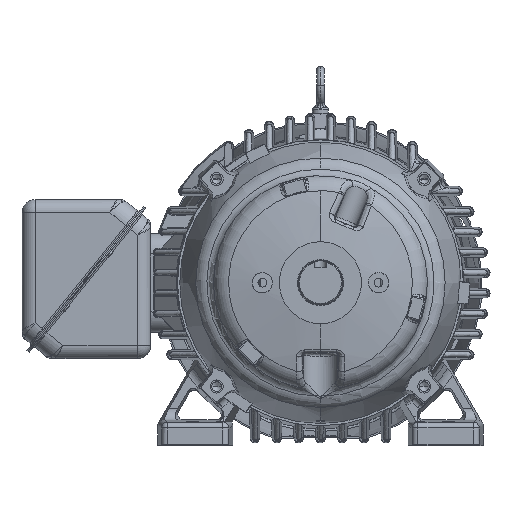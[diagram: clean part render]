
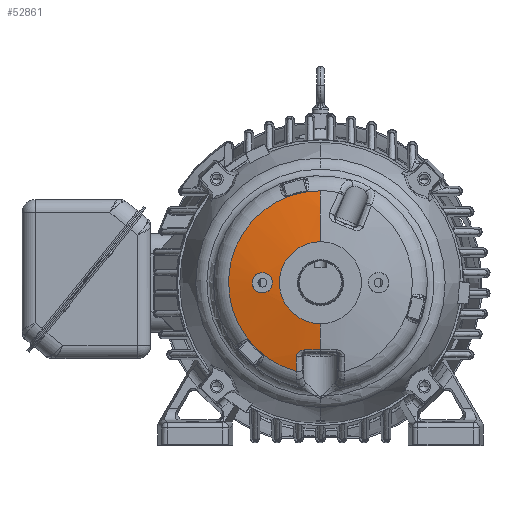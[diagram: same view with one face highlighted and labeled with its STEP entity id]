
A CAD part, top view. The second image highlights one B-rep face of the part: STEP entity #52861.
In plain terms, the highlighted spherical face has radius 431.8 mm.
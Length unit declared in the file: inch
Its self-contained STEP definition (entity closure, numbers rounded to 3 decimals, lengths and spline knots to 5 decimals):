
#41563=CARTESIAN_POINT('',(0.,0.,-3.687));
#41564=DIRECTION('',(0.,0.,-1.));
#41565=DIRECTION('',(0.,1.,0.));
#41566=AXIS2_PLACEMENT_3D('',#41563,#41564,#41565);
#42620=CARTESIAN_POINT('',(0.,0.,12.84661));
#42621=DIRECTION('',(1.,0.,0.));
#42622=DIRECTION('',(0.,0.104,-0.995));
#42623=AXIS2_PLACEMENT_3D('',#42620,#42621,#42622);
#42625=CARTESIAN_POINT('',(0.,0.,12.84661));
#42626=DIRECTION('',(-1.,0.,0.));
#42627=DIRECTION('',(0.,-0.104,-0.995));
#42628=AXIS2_PLACEMENT_3D('',#42625,#42626,#42627);
#42669=CARTESIAN_POINT('',(0.,0.,-4.06147));
#42670=DIRECTION('',(0.,0.,1.));
#42671=DIRECTION('',(0.,-1.,0.));
#42672=AXIS2_PLACEMENT_3D('',#42669,#42670,#42671);
#42674=CARTESIAN_POINT('',(2.0625,0.,-4.02781));
#42675=CARTESIAN_POINT('',(2.0625,-0.03334,-4.02781));
#42676=CARTESIAN_POINT('',(2.07011,-0.10007,
-4.02669));
#42677=CARTESIAN_POINT('',(2.10446,-0.19594,
-4.0216));
#42678=CARTESIAN_POINT('',(2.15905,-0.27983,
-4.0135));
#42679=CARTESIAN_POINT('',(2.22785,-0.34718,
-4.0033));
#42680=CARTESIAN_POINT('',(2.31446,-0.40076,
-3.99045));
#42681=CARTESIAN_POINT('',(2.41441,-0.43321,
-3.9756));
#42682=CARTESIAN_POINT('',(2.51771,-0.44134,
-3.96024));
#42683=CARTESIAN_POINT('',(2.62581,-0.42409,
-3.94415));
#42684=CARTESIAN_POINT('',(2.73131,-0.37719,
-3.92844));
#42685=CARTESIAN_POINT('',(2.819,-0.30627,
-3.91536));
#42686=CARTESIAN_POINT('',(2.88646,-0.21551,
-3.9053));
#42687=CARTESIAN_POINT('',(2.92889,-0.1082,
-3.89896));
#42688=CARTESIAN_POINT('',(2.9375,-0.03569,-3.89768));
#42689=CARTESIAN_POINT('',(2.9375,0.,-3.89768));
#42691=CARTESIAN_POINT('',(2.9375,0.,-3.89768));
#42692=CARTESIAN_POINT('',(2.9375,0.03529,-3.89768));
#42693=CARTESIAN_POINT('',(2.9291,0.1072,
-3.89893));
#42694=CARTESIAN_POINT('',(2.88699,0.21459,
-3.90522));
#42695=CARTESIAN_POINT('',(2.81967,0.30553,
-3.91526));
#42696=CARTESIAN_POINT('',(2.73261,0.37636,
-3.92824));
#42697=CARTESIAN_POINT('',(2.62703,0.42379,
-3.94397));
#42698=CARTESIAN_POINT('',(2.51831,0.44136,
-3.96015));
#42699=CARTESIAN_POINT('',(2.41464,0.43327,
-3.97556));
#42700=CARTESIAN_POINT('',(2.31453,0.40082,
-3.99044));
#42701=CARTESIAN_POINT('',(2.22745,0.34695,
-4.00336));
#42702=CARTESIAN_POINT('',(2.15843,0.27905,
-4.0136));
#42703=CARTESIAN_POINT('',(2.10436,0.19563,
-4.02161));
#42704=CARTESIAN_POINT('',(2.07009,0.09996,
-4.02669));
#42705=CARTESIAN_POINT('',(2.0625,0.03332,-4.02781));
#42706=CARTESIAN_POINT('',(2.0625,0.,-4.02781));
#48996=CARTESIAN_POINT('',(0.68211,-2.89497,
-3.89119));
#48997=CARTESIAN_POINT('',(0.59556,-2.89497,
-3.89472));
#48998=CARTESIAN_POINT('',(0.43079,-2.89496,
-3.9001));
#48999=CARTESIAN_POINT('',(0.20447,-2.89496,
-3.9043));
#49000=CARTESIAN_POINT('',(0.06637,-2.89496,
-3.90508));
#49001=CARTESIAN_POINT('',(0.,-2.89496,
-3.90508));
#49003=CARTESIAN_POINT('',(0.68211,-2.89497,
-3.89119));
#49004=CARTESIAN_POINT('',(0.68729,-2.89497,
-3.89098));
#49005=CARTESIAN_POINT('',(0.69793,-2.89503,
-3.89053));
#49006=CARTESIAN_POINT('',(0.71464,-2.89547,
-3.88975));
#49007=CARTESIAN_POINT('',(0.7324,-2.89644,
-3.88881));
#49008=CARTESIAN_POINT('',(0.75127,-2.8982,
-3.88767));
#49009=CARTESIAN_POINT('',(0.77133,-2.90101,
-3.88627));
#49010=CARTESIAN_POINT('',(0.79251,-2.90514,
-3.88457));
#49011=CARTESIAN_POINT('',(0.81472,-2.91089,
-3.8825));
#49012=CARTESIAN_POINT('',(0.83769,-2.9185,
-3.88004));
#49013=CARTESIAN_POINT('',(0.86096,-2.92809,
-3.87719));
#49014=CARTESIAN_POINT('',(0.88408,-2.93969,
-3.87394));
#49015=CARTESIAN_POINT('',(0.90644,-2.95313,
-3.87038));
#49016=CARTESIAN_POINT('',(0.92771,-2.9682,
-3.86654));
#49017=CARTESIAN_POINT('',(0.94779,-2.98487,
-3.86245));
#49018=CARTESIAN_POINT('',(0.9665,-3.00301,
-3.85812));
#49019=CARTESIAN_POINT('',(0.98361,-3.0224,
-3.85363));
#49020=CARTESIAN_POINT('',(0.99885,-3.04275,
-3.84903));
#49021=CARTESIAN_POINT('',(1.01203,-3.0637,
-3.8444));
#49022=CARTESIAN_POINT('',(1.02298,-3.08492,
-3.83982));
#49023=CARTESIAN_POINT('',(1.03154,-3.10584,
-3.83541));
#49024=CARTESIAN_POINT('',(1.03779,-3.12616,
-3.83123));
#49025=CARTESIAN_POINT('',(1.0419,-3.14579,
-3.82728));
#49026=CARTESIAN_POINT('',(1.04402,-3.16473,
-3.82356));
#49027=CARTESIAN_POINT('',(1.0442,-3.17695,
-3.82123));
#49028=CARTESIAN_POINT('',(1.044,-3.18295,
-3.82009));
#49215=CARTESIAN_POINT('',(1.02054,-3.82077,
-3.687));
#49229=CARTESIAN_POINT('',(1.02054,-3.82077,
-3.687));
#49230=CARTESIAN_POINT('',(1.02366,-3.74329,
-3.70471));
#49231=CARTESIAN_POINT('',(1.02953,-3.5927,
-3.738));
#49232=CARTESIAN_POINT('',(1.03729,-3.3804,
-3.78203));
#49233=CARTESIAN_POINT('',(1.04186,-3.24731,
-3.80793));
#49234=CARTESIAN_POINT('',(1.044,-3.18295,
-3.82009));
#49494=CARTESIAN_POINT('',(0.,1.7655,-4.06147));
#49495=VERTEX_POINT('',#49494);
#49496=CARTESIAN_POINT('',(0.,-1.7655,-4.06147));
#49497=VERTEX_POINT('',#49496);
#49530=VERTEX_POINT('',#42674);
#49531=VERTEX_POINT('',#42689);
#49991=CARTESIAN_POINT('',(0.,3.95471,-3.687));
#49992=VERTEX_POINT('',#49991);
#50043=VERTEX_POINT('',#49215);
#50045=VERTEX_POINT('',#49234);
#50047=VERTEX_POINT('',#48996);
#50048=VERTEX_POINT('',#49001);
#52837=CARTESIAN_POINT('',(0.,0.,12.84661));
#52838=DIRECTION('',(0.,0.,-1.));
#52839=DIRECTION('',(0.,-1.,0.));
#52840=AXIS2_PLACEMENT_3D('',#52837,#52838,#52839);
#52841=SPHERICAL_SURFACE('',#52840,17.);
#52842=ORIENTED_EDGE('',*,*,#52805,.F.);
#52844=ORIENTED_EDGE('',*,*,#52843,.F.);
#52845=ORIENTED_EDGE('',*,*,#52824,.T.);
#52847=ORIENTED_EDGE('',*,*,#52846,.F.);
#52849=ORIENTED_EDGE('',*,*,#52848,.T.);
#52851=ORIENTED_EDGE('',*,*,#52850,.F.);
#52852=ORIENTED_EDGE('',*,*,#50667,.F.);
#52853=EDGE_LOOP('',(#52842,#52844,#52845,#52847,#52849,#52851,#52852));
#52854=FACE_OUTER_BOUND('',#52853,.F.);
#52856=ORIENTED_EDGE('',*,*,#52855,.F.);
#52858=ORIENTED_EDGE('',*,*,#52857,.F.);
#52859=EDGE_LOOP('',(#52856,#52858));
#52860=FACE_BOUND('',#52859,.F.);
#52861=ADVANCED_FACE('',(#52854,#52860),#52841,.T.);
#41567=CIRCLE('',#41566,3.95471);
#42624=CIRCLE('',#42623,17.);
#42629=CIRCLE('',#42628,17.);
#42673=CIRCLE('',#42672,1.7655);
#42690=B_SPLINE_CURVE_WITH_KNOTS('',3,(#42674,#42675,#42676,#42677,#42678,
#42679,#42680,#42681,#42682,#42683,#42684,#42685,#42686,#42687,#42688,#42689),
.UNSPECIFIED.,.F.,.F.,(4,1,1,1,1,1,1,1,1,1,1,1,1,4),(0.,0.07692,
0.15385,0.23077,0.30769,0.38462,
0.46154,0.53846,0.61538,0.69231,
0.76923,0.84615,0.92308,1.),.UNSPECIFIED.);
#42707=B_SPLINE_CURVE_WITH_KNOTS('',3,(#42691,#42692,#42693,#42694,#42695,
#42696,#42697,#42698,#42699,#42700,#42701,#42702,#42703,#42704,#42705,#42706),
.UNSPECIFIED.,.F.,.F.,(4,1,1,1,1,1,1,1,1,1,1,1,1,4),(0.,0.07692,
0.15385,0.23077,0.30769,0.38462,
0.46154,0.53846,0.61538,0.69231,
0.76923,0.84615,0.92308,1.),.UNSPECIFIED.);
#49002=B_SPLINE_CURVE_WITH_KNOTS('',3,(#48996,#48997,#48998,#48999,#49000,
#49001),.UNSPECIFIED.,.F.,.F.,(4,1,1,4),(0.,0.33333,
0.66667,1.),.UNSPECIFIED.);
#49029=B_SPLINE_CURVE_WITH_KNOTS('',3,(#49003,#49004,#49005,#49006,#49007,
#49008,#49009,#49010,#49011,#49012,#49013,#49014,#49015,#49016,#49017,#49018,
#49019,#49020,#49021,#49022,#49023,#49024,#49025,#49026,#49027,#49028),
.UNSPECIFIED.,.F.,.F.,(4,1,1,1,1,1,1,1,1,1,1,1,1,1,1,1,1,1,1,1,1,1,1,4),(0.,
0.04348,0.08696,0.13043,0.17391,
0.21739,0.26087,0.30435,0.34783,
0.3913,0.43478,0.47826,0.52174,
0.56522,0.6087,0.65217,0.69565,
0.73913,0.78261,0.82609,0.86957,
0.91304,0.95652,1.),.UNSPECIFIED.);
#49235=B_SPLINE_CURVE_WITH_KNOTS('',3,(#49229,#49230,#49231,#49232,#49233,
#49234),.UNSPECIFIED.,.F.,.F.,(4,1,1,4),(0.,0.33333,
0.66667,1.),.UNSPECIFIED.);
#50667=EDGE_CURVE('',#49992,#50043,#41567,.T.);
#52805=EDGE_CURVE('',#49495,#49992,#42624,.T.);
#52824=EDGE_CURVE('',#49497,#50048,#42629,.T.);
#52843=EDGE_CURVE('',#49497,#49495,#42673,.T.);
#52846=EDGE_CURVE('',#50047,#50048,#49002,.T.);
#52848=EDGE_CURVE('',#50047,#50045,#49029,.T.);
#52850=EDGE_CURVE('',#50043,#50045,#49235,.T.);
#52855=EDGE_CURVE('',#49530,#49531,#42690,.T.);
#52857=EDGE_CURVE('',#49531,#49530,#42707,.T.);
